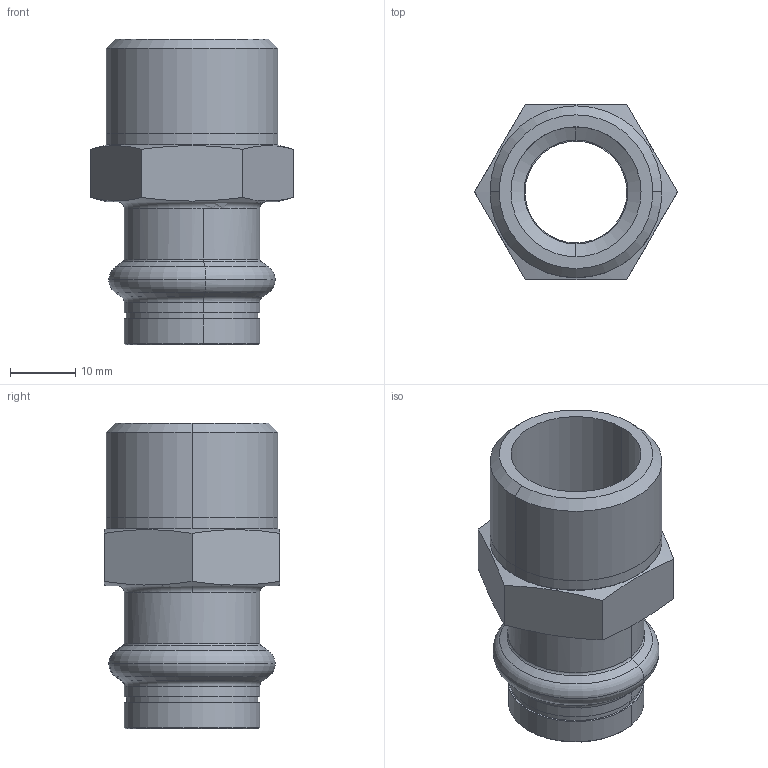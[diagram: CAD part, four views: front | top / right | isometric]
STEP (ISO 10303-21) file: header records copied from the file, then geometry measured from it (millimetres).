
FILE_DESCRIPTION(('CoCreate Modeling STEP Export'),'2;1');
FILE_NAME('8243GVW1834.stp','2013-03-05T10:32:49',(''),(''),'CoCreate Modeling STEP processor for AP214 (Solid Model)','CoCreate Modeling 17.00A 17-Jun-2010 (C) Parametric Technology GmbH','');
FILE_SCHEMA(('AUTOMOTIVE_DESIGN { 1 0 10303 214 1 1 1 1 }'));
Length unit declared in the file: millimetre
Products named in the file (1): 8243GVW1834
Bounding box: 31.18 x 27 x 47 mm (x, y, z)
Volume: 9697.9 mm3; surface area: 7355.8 mm2
Topology: 1 solids, 1 shells, 65 faces, 147 edges, 89 vertices
Faces by surface type: cylinder 24, cone 18, plane 13, torus 10
Entity records: 2212 total; most frequent: CARTESIAN_POINT 916, ORIENTED_EDGE 294, DIRECTION 218, EDGE_CURVE 147, VERTEX_POINT 89, AXIS2_PLACEMENT_3D 85, EDGE_LOOP 72, FACE_OUTER_BOUND 65
